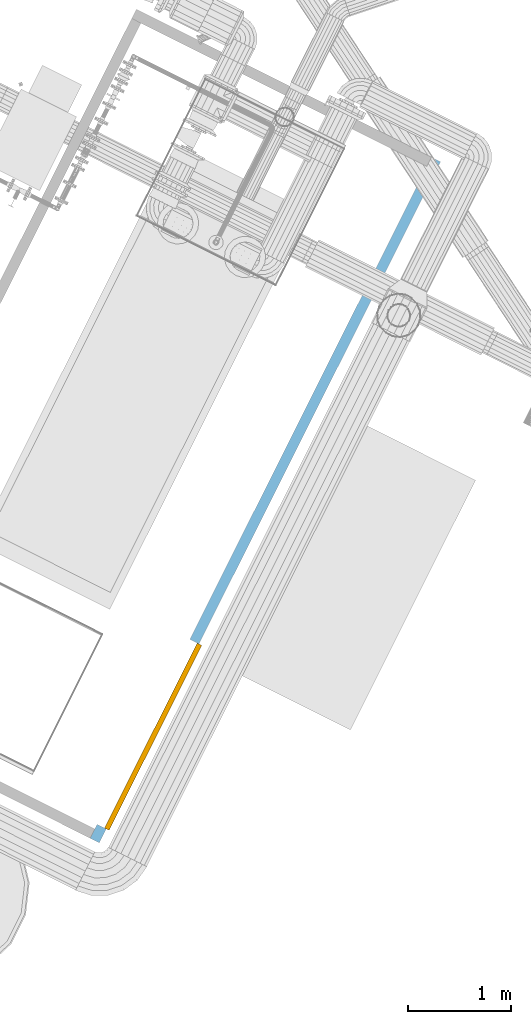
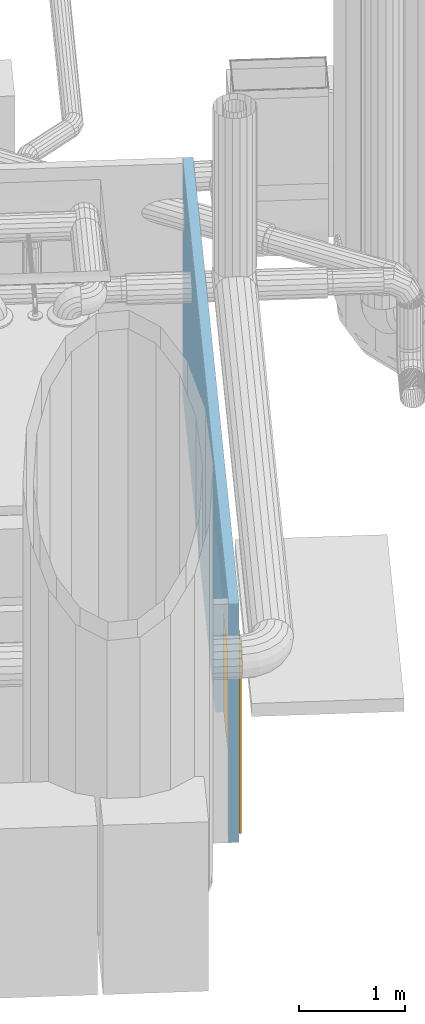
# One storey, part 2 of 206: 1 door, 1 opening, plus 1 element that does not belong to this part.
"""IFC2X3 building model written with IfcOpenShell, lengths in metres."""

from ifc_helpers import new_model, si_unit, derived_unit, direction, frame, frame_2d, origin, place, context, subcontext, project, spatial, rectangle, extrude, face_set, surface_model, source, transform, mapped, material, layer, layer_set, layer_usage, type_object, type_shapes, element, fill, save


model = new_model("IFC2X3")

# Units and contexts
model_context = context("Model", 3, precision=5.2338327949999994e-05, world=origin(), true_north=direction((0.0, 1.0)))
body_context = subcontext(model_context, "Body", "Model", "MODEL_VIEW")
ifc_project = project(units=[si_unit("LENGTHUNIT", "METRE"), si_unit("AREAUNIT", "SQUARE_METRE"), si_unit("VOLUMEUNIT", "CUBIC_METRE"), si_unit("MASSUNIT", "GRAM", prefix="KILO"), si_unit("PLANEANGLEUNIT", "RADIAN"), derived_unit("THERMALTRANSMITTANCEUNIT", [(si_unit("MASSUNIT", "GRAM", prefix="KILO"), 1), (si_unit("THERMODYNAMICTEMPERATUREUNIT", "KELVIN"), -1), (si_unit("TIMEUNIT", "SECOND"), -3)])], contexts=[model_context])

# Site, building, storey
site_placement = place(None, frame((0.0, 0.0, 0.0), z_axis=(0.0, 0.0, 1.0), x_axis=(0.8939966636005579, -0.4480736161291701, 0.0)))
site = spatial("IfcSite", under=ifc_project, at=site_placement, Name="Default", CompositionType="ELEMENT")
building_placement = place(site_placement, origin())
building = spatial("IfcBuilding", under=site, at=building_placement, CompositionType="ELEMENT")
storey_placement = place(building_placement, origin())
storey = spatial("IfcBuildingStorey", under=building, at=storey_placement, Name="Erdgeschoss", CompositionType="ELEMENT", Elevation=0.0)

# Wall, opening, door
ifc_material_1 = material(Name="KS")
ifc_layer = layer(ifc_material_1, 0.1)
ifc_layer_set = layer_set([ifc_layer], Name="Basiswand:Wand:1000")
ifc_layer_usage = layer_usage(ifc_layer_set, "AXIS2", "NEGATIVE", 0.05)
wall_type = type_object("IfcWallType", Name="Basiswand:Wand:1000", PredefinedType="STANDARD", material=ifc_layer_set)
wall_placement = place(storey_placement, frame((32.14039487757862, 10.143208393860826, 0.0), z_axis=(0.0, 0.0, 1.0), x_axis=(0.0, -1.0, 0.0)))
wall = element("IfcWallStandardCase", 1, at=wall_placement, inside=storey, type_object=wall_type, material=ifc_layer_usage, Name="Wand", ObjectType="Wand", context=body_context, shape_type="SweptSolid", body=[
    extrude(rectangle(XDim=7.36134, YDim=0.10000000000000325, at=frame_2d((3.68067, 0.0), x_axis=(-1.0, 0.0))), origin(), (0.0, 0.0, 1.0), 2.7499999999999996),
])
opening_placement = place(wall_placement, frame((10.143208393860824, -32.14039487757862, 0.0), z_axis=(0.0, 0.0, 1.0), x_axis=(0.0, 1.0, 0.0)))
opening = element("IfcOpeningElement", 2, at=opening_placement, cuts=wall, Name="Tür", ObjectType="Opening", context=body_context, shape_type="SweptSolid", body=[
    extrude(rectangle(XDim=2.1, YDim=2.0, at=frame_2d((0.0, 0.0), x_axis=(0.0, 1.0))), frame((32.08929487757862, 3.931870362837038, 1.05), z_axis=(1.0, 0.0, 0.0), x_axis=(0.0, 1.0, 0.0)), (0.0, 0.0, 1.0), 0.11220000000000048),
])
ifc_material_2 = material(Name="<Unnamed>")
door_style = type_object("IfcDoorStyle", Name="Tür:Tür", ConstructionType="NOTDEFINED", OperationType="DOUBLE_DOOR_SINGLE_SWING", ParameterTakesPrecedence=False, Sizeable=False, material=ifc_material_2)
shared_shape = source(origin(), body_context, "Body", "SurfaceModel", [
    surface_model("IfcFaceBasedSurfaceModel", [(2.0, -0.03110000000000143, 0.0), (2.0, -0.03110000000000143, 2.1), (2.0, 0.01889999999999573, 2.1), (2.0, 0.018900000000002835, 0.0), (1.0, -0.03110000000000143, 2.1), (1.0, 0.01889999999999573, 2.1), (1.0, -0.03110000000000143, 0.0), (1.0, 0.01889999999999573, 0.0), (1.0, 0.018899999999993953, 1.0499999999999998), (1.0, -0.03110000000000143, 1.0499999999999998), (0.0, -0.03110000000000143, 2.1), (0.0, 0.01889999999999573, 2.1), (0.0, -0.03110000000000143, 0.0), (0.0, 0.01889999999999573, 0.0)], [face_set([[[0, 1, 2, 3]], [[2, 1, 4, 5]], [[6, 0, 3, 7]], [[3, 8, 5, 2]], [[3, 7, 8]], [[9, 0, 1, 4]], [[6, 0, 9]], [[5, 7, 6]], [[4, 5, 6]], [[4, 10, 11, 5]], [[10, 12, 13, 11]], [[13, 12, 6, 7]], [[8, 11, 5]], [[7, 13, 11, 8]], [[10, 9, 4]], [[12, 6, 9, 10]], [[4, 6, 7]], [[5, 4, 7]]])]),
])
type_shapes(door_style, [shared_shape])
door_placement = place(opening_placement, frame((32.20149487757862, 4.931870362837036, 0.0), z_axis=(0.0, 0.0, 1.0), x_axis=(0.0, -1.0, 0.0)))
door = element("IfcDoor", 3, at=door_placement, inside=storey, type_object=door_style, material=ifc_material_2, Name="Tür", ObjectType="Tür", OverallHeight=2.1, OverallWidth=1.9999999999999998, context=body_context, shape_type="MappedRepresentation", body=[
    mapped(shared_shape, transform((0.0, 0.0, 0.0), scale=1.0)),
])
fill(opening, door)

save(model, "model.ifc")
